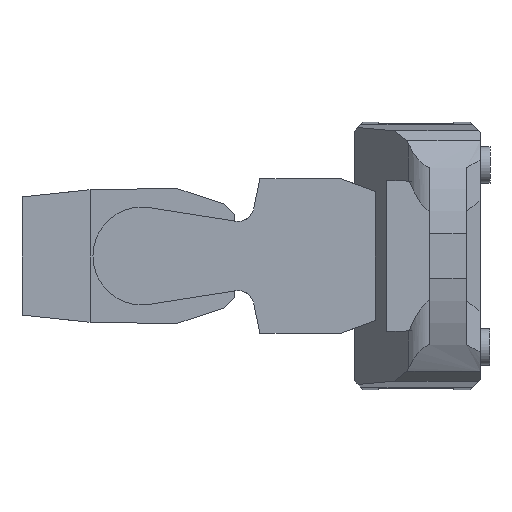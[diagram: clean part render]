
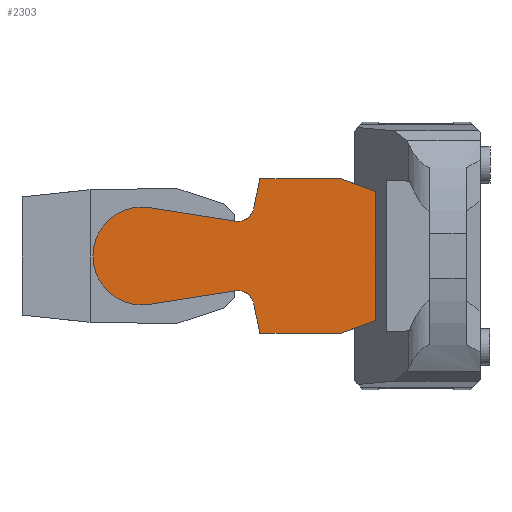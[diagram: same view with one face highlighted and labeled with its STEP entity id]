
A CAD part, left-side view. The second image highlights one B-rep face of the part: STEP entity #2303.
In plain terms, the highlighted planar face has unit normal (-1, 0, 0) as drawn and (0, 1, 0) by its records, which use the part's own axes.
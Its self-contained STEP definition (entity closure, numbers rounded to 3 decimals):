
#108=CIRCLE('',#2511,37.597);
#113=CIRCLE('',#2520,11.999);
#115=CIRCLE('',#2524,11.999);
#671=ORIENTED_EDGE('',*,*,#1019,.F.);
#672=ORIENTED_EDGE('',*,*,#1040,.T.);
#673=ORIENTED_EDGE('',*,*,#1045,.T.);
#674=ORIENTED_EDGE('',*,*,#1051,.T.);
#675=ORIENTED_EDGE('',*,*,#1054,.T.);
#676=ORIENTED_EDGE('',*,*,#1061,.T.);
#677=ORIENTED_EDGE('',*,*,#1072,.F.);
#678=ORIENTED_EDGE('',*,*,#1024,.F.);
#679=ORIENTED_EDGE('',*,*,#1031,.F.);
#680=ORIENTED_EDGE('',*,*,#1034,.F.);
#681=ORIENTED_EDGE('',*,*,#1039,.F.);
#682=ORIENTED_EDGE('',*,*,#1015,.F.);
#1015=EDGE_CURVE('',#1277,#1278,#1493,.T.);
#1019=EDGE_CURVE('',#1281,#1277,#108,.F.);
#1024=EDGE_CURVE('',#1285,#1286,#1500,.T.);
#1031=EDGE_CURVE('',#1291,#1285,#1507,.T.);
#1034=EDGE_CURVE('',#1293,#1291,#1510,.T.);
#1039=EDGE_CURVE('',#1278,#1293,#113,.T.);
#1040=EDGE_CURVE('',#1281,#1296,#1512,.T.);
#1045=EDGE_CURVE('',#1296,#1299,#115,.T.);
#1051=EDGE_CURVE('',#1299,#1303,#1519,.T.);
#1054=EDGE_CURVE('',#1303,#1305,#1522,.T.);
#1061=EDGE_CURVE('',#1305,#1311,#1529,.T.);
#1072=EDGE_CURVE('',#1286,#1311,#1537,.T.);
#1277=VERTEX_POINT('',#3720);
#1278=VERTEX_POINT('',#3722);
#1281=VERTEX_POINT('',#3729);
#1285=VERTEX_POINT('',#3739);
#1286=VERTEX_POINT('',#3741);
#1291=VERTEX_POINT('',#3753);
#1293=VERTEX_POINT('',#3759);
#1296=VERTEX_POINT('',#3771);
#1299=VERTEX_POINT('',#3779);
#1303=VERTEX_POINT('',#3790);
#1305=VERTEX_POINT('',#3796);
#1311=VERTEX_POINT('',#3810);
#1493=LINE('',#3721,#1727);
#1500=LINE('',#3740,#1734);
#1507=LINE('',#3754,#1741);
#1510=LINE('',#3760,#1744);
#1512=LINE('',#3770,#1746);
#1519=LINE('',#3791,#1753);
#1522=LINE('',#3797,#1756);
#1529=LINE('',#3811,#1763);
#1537=LINE('',#3833,#1771);
#1727=VECTOR('',#2997,1000.);
#1734=VECTOR('',#3012,1000.);
#1741=VECTOR('',#3021,1000.);
#1744=VECTOR('',#3026,1000.);
#1746=VECTOR('',#3040,1000.);
#1753=VECTOR('',#3059,1000.);
#1756=VECTOR('',#3064,1000.);
#1763=VECTOR('',#3073,1000.);
#1771=VECTOR('',#3103,1000.);
#1932=EDGE_LOOP('',(#671,#672,#673,#674,#675,#676,#677,#678,#679,#680,#681,
#682));
#2076=FACE_BOUND('',#1932,.T.);
#2184=PLANE('',#2542);
#2303=ADVANCED_FACE('',(#2076),#2184,.T.);
#2511=AXIS2_PLACEMENT_3D('',#3730,#3003,#3004);
#2520=AXIS2_PLACEMENT_3D('',#3768,#3036,#3037);
#2524=AXIS2_PLACEMENT_3D('',#3780,#3048,#3049);
#2542=AXIS2_PLACEMENT_3D('',#3835,#3106,#3107);
#2997=DIRECTION('',(-0.988,0.,-0.155));
#3003=DIRECTION('',(0.,1.,0.));
#3004=DIRECTION('',(0.,0.,1.));
#3012=DIRECTION('',(-0.938,0.,-0.346));
#3021=DIRECTION('',(-1.,0.,0.));
#3026=DIRECTION('',(-0.204,0.,0.979));
#3036=DIRECTION('',(0.,1.,0.));
#3037=DIRECTION('',(0.,0.,1.));
#3040=DIRECTION('',(-0.988,0.,0.155));
#3048=DIRECTION('',(0.,-1.,0.));
#3049=DIRECTION('',(0.,0.,-1.));
#3059=DIRECTION('',(-0.204,0.,-0.979));
#3064=DIRECTION('',(-1.,0.,0.));
#3073=DIRECTION('',(-0.938,0.,0.346));
#3103=DIRECTION('',(0.,0.,-1.));
#3106=DIRECTION('',(0.,1.,0.));
#3107=DIRECTION('',(0.,0.,1.));
#3720=CARTESIAN_POINT('',(250.418,256.424,37.136));
#3721=CARTESIAN_POINT('',(184.004,256.424,26.746));
#3722=CARTESIAN_POINT('',(184.004,256.424,26.746));
#3729=CARTESIAN_POINT('',(250.418,256.424,-37.136));
#3730=CARTESIAN_POINT('',(256.285,256.424,0.));
#3739=CARTESIAN_POINT('',(103.156,256.424,59.21));
#3740=CARTESIAN_POINT('',(76.815,256.424,49.506));
#3741=CARTESIAN_POINT('',(76.861,256.424,49.523));
#3753=CARTESIAN_POINT('',(165.589,256.424,59.21));
#3754=CARTESIAN_POINT('',(103.156,256.424,59.21));
#3759=CARTESIAN_POINT('',(170.403,256.424,36.149));
#3760=CARTESIAN_POINT('',(165.589,256.424,59.21));
#3768=CARTESIAN_POINT('',(182.149,256.424,38.601));
#3770=CARTESIAN_POINT('',(184.004,256.424,-26.746));
#3771=CARTESIAN_POINT('',(184.004,256.424,-26.746));
#3779=CARTESIAN_POINT('',(170.403,256.424,-36.149));
#3780=CARTESIAN_POINT('',(182.149,256.424,-38.601));
#3790=CARTESIAN_POINT('',(165.589,256.424,-59.21));
#3791=CARTESIAN_POINT('',(165.589,256.424,-59.21));
#3796=CARTESIAN_POINT('',(103.156,256.424,-59.21));
#3797=CARTESIAN_POINT('',(103.156,256.424,-59.21));
#3810=CARTESIAN_POINT('',(76.861,256.424,-49.523));
#3811=CARTESIAN_POINT('',(76.815,256.424,-49.506));
#3833=CARTESIAN_POINT('',(76.861,256.424,582.835));
#3835=CARTESIAN_POINT('',(76.861,256.424,582.835));
